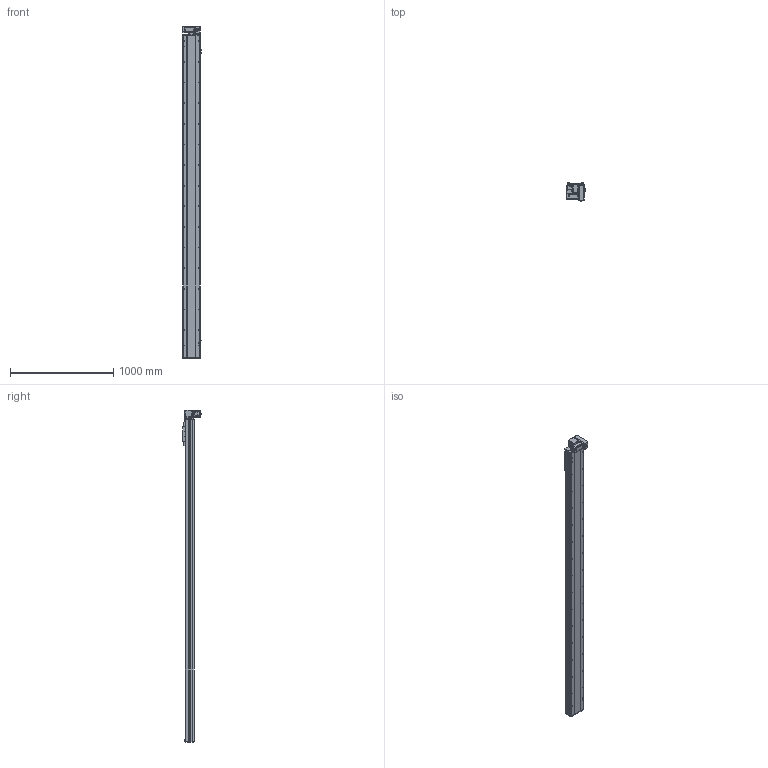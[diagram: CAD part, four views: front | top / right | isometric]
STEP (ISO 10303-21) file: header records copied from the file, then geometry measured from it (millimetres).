
FILE_DESCRIPTION (( 'STEP AP214' ), '1' );
FILE_NAME ('TPE17-L40-2800-RD-T40-C4.STEP', '2023-04-12T06:45:11', ( '' ), ( '' ), 'SwSTEP 2.0', 'SolidWorks 2020', '' );
FILE_SCHEMA (( 'AUTOMOTIVE_DESIGN' ));
Length unit declared in the file: millimetre
Products named in the file (12): hexagon head bolts-full thread gb_GB_FASTENER_BOLT_STBAB A M5X16-N; 葩璃 TPE17-L-001 菁釱MZ-170-01^TPE17-L40-RD-T40-C4; 葩璃 pm-t65-672^TPE17-L40-RD-T40-C4; 葩璃 TPT14-L-009 萇儂啣^TPE17-L40-RD-T40-C4_400W; 葩璃 TPE17 賑雄殤^TPE17-L40-RD-T40-C4; hexagon socket head cap screws gb_GB_FASTENER_SCREWS_HSHCS M3X6-N; 葩璃 詩湍110^TPE17-L40-RD-T40-C4; 葩璃 侂狟400W^TPE17-L40-RD-T40-C4; hex nuts, style 1-grades ab gb_GB_FASTENER_NUT_SNAB1 M3-N; 葩璃 TPE17-L-007 々湍釱MZ-169x88^TPE17-L40-RD-T40-C4_TPE17; TPE17-L40-2800-RD-T40-C4; 葩璃 TPE17-L-002 耜裔ZTMZ-135-04^TPE17-L40-RD-T40-C4
Assembly tree (24 placements, depth 2):
  TPE17-L40-2800-RD-T40-C4
    葩璃 TPE17-L-001 菁釱MZ-170-01^TPE17-L40-RD-T40-C4
    葩璃 TPE17-L-002 耜裔ZTMZ-135-04^TPE17-L40-RD-T40-C4  x2
    葩璃 詩湍110^TPE17-L40-RD-T40-C4
    葩璃 TPE17-L-007 々湍釱MZ-169x88^TPE17-L40-RD-T40-C4_TPE17
    葩璃 TPT14-L-009 萇儂啣^TPE17-L40-RD-T40-C4_400W
    葩璃 TPE17 賑雄殤^TPE17-L40-RD-T40-C4
    葩璃 pm-t65-672^TPE17-L40-RD-T40-C4  x3
    葩璃 侂狟400W^TPE17-L40-RD-T40-C4
    hexagon socket head cap screws gb_GB_FASTENER_SCREWS_HSHCS M3X6-N  x6
    hex nuts, style 1-grades ab gb_GB_FASTENER_NUT_SNAB1 M3-N  x6
    hexagon head bolts-full thread gb_GB_FASTENER_BOLT_STBAB A M5X16-N
Bounding box: 186.2 x 175.15 x 3219 mm (x, y, z)
Volume: 28266879.7 mm3; surface area: 3528382.3 mm2
Topology: 35 solids, 35 shells, 1770 faces, 4507 edges, 2818 vertices
Faces by surface type: plane 981, cylinder 501, cone 242, bspline 34, torus 12
Entity records: 42119 total; most frequent: CARTESIAN_POINT 8126, DIRECTION 6752, ORIENTED_EDGE 6470, EDGE_CURVE 3235, AXIS2_PLACEMENT_3D 2317, LINE 2118, VECTOR 2118, VERTEX_POINT 2081
